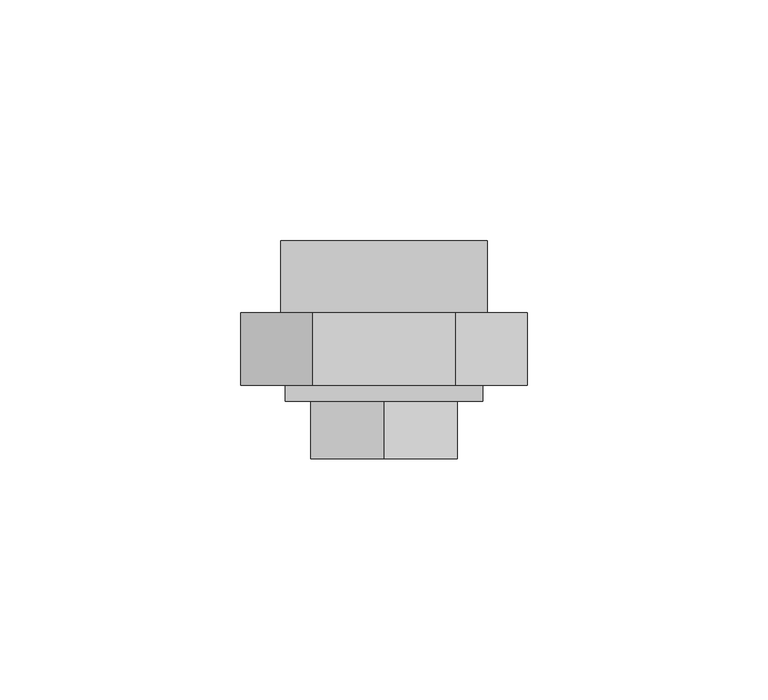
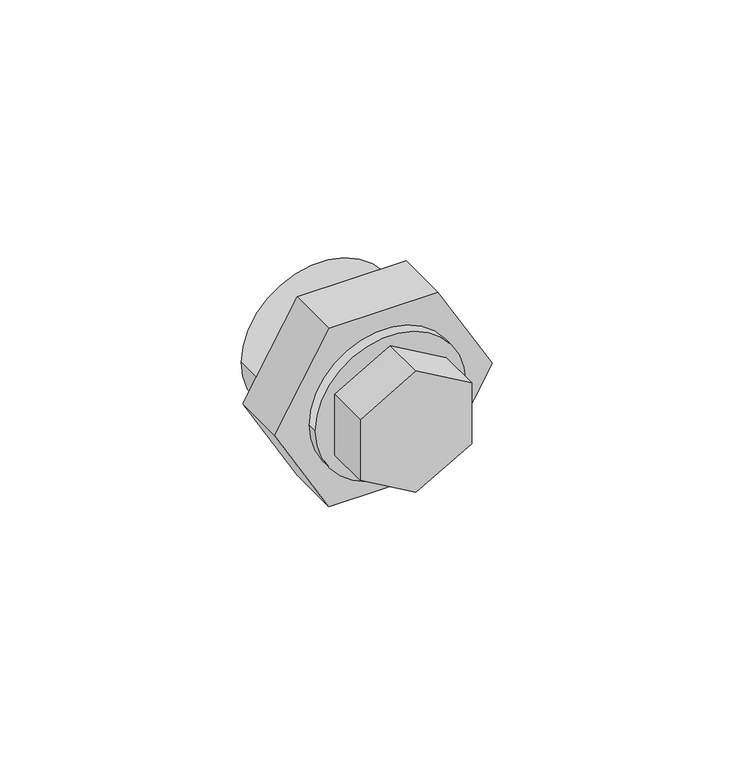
"""IFC4 building model written with IfcOpenShell, lengths in millimetres: pipe fitting geometry, EGB_VASEN_ PPR_Enlace desmontable rosca hembra WXR104 : Enlace desmontable rosca hembra WXR104."""

from ifc_helpers import new_model, si_unit, point, frame, origin, origin_2d, place, context, project, spatial, polyline, circle_curve, trimmed, segment, composite_curve, outline, extrude, source, transform, mapped, element, save


def pipe_fitting_e01cd511(model_context):
    return source(origin(), model_context, "Body", "SweptSolid", [
        extrude(outline(polyline([(-8.7988181, -15.24), (-17.5976362, 0.0), (-8.7988181, 15.24), (8.7988181, 15.24), (17.5976362, 0.0), (8.7988181, -15.24), (-8.7988181, -15.24)])), frame((0.0, -29.7545833, 0.0), z_axis=(0.0, 1.0, 0.0), x_axis=(0.0, 0.0, 1.0)), (0.0, 0.0, 1.0), 12.0),
        extrude(outline(polyline([(0.0, 29.7912739), (25.8, 14.8956369), (25.8, -14.8956369), (0.0, -29.7912739), (-25.8, -14.8956369), (-25.8, 14.8956369), (0.0, 29.7912739)])), frame((0.0, -14.3870833, 0.0), z_axis=(0.0, 1.0, 0.0), x_axis=(0.0, 0.0, 1.0)), (0.0, 0.0, 1.0), 15.0),
        extrude(outline(composite_curve([segment(trimmed(circle_curve(origin_2d(), 20.52), [point((0.0, -20.52))], [point((0.0, 20.52))], False, "CARTESIAN"), True, "CONTINUOUS"), segment(trimmed(circle_curve(origin_2d(), 20.52), [point((0.0, 20.52))], [point((0.0, -20.52))], False, "CARTESIAN"), True, "CONTINUOUS")], self_intersect=False)), frame((0.0, -17.7545833, 0.0), z_axis=(0.0, 1.0, 0.0), x_axis=(0.0, 0.0, 1.0)), (0.0, 0.0, 1.0), 3.3675),
        extrude(outline(composite_curve([segment(trimmed(circle_curve(origin_2d(), 21.5), [point((0.0, -21.5))], [point((0.0, 21.5))], False, "CARTESIAN"), True, "CONTINUOUS"), segment(trimmed(circle_curve(origin_2d(), 21.5), [point((0.0, 21.5))], [point((0.0, -21.5))], False, "CARTESIAN"), True, "CONTINUOUS")], self_intersect=False), holes=[composite_curve([segment(trimmed(circle_curve(origin_2d(), 16.0), [point((0.0, -16.0))], [point((0.0, 16.0))], True, "CARTESIAN"), True, "CONTINUOUS"), segment(trimmed(circle_curve(origin_2d(), 16.0), [point((0.0, 16.0))], [point((0.0, -16.0))], True, "CARTESIAN"), True, "CONTINUOUS")], self_intersect=False)]), frame((0.0, 0.6129167, 0.0), z_axis=(0.0, 1.0, 0.0), x_axis=(0.0, 0.0, 1.0)), (0.0, 0.0, 1.0), 15.0),
    ])


if __name__ == "__main__":
    model = new_model("IFC4")
    model_context = context("Model", 3, world=origin())
    ifc_project = project(units=[si_unit("LENGTHUNIT", "METRE", prefix="MILLI")], contexts=[model_context])
    site = spatial("IfcSite", under=ifc_project)
    building = spatial("IfcBuilding", under=site)
    placement = place(None, origin())
    pipe_fitting_shape = pipe_fitting_e01cd511(model_context)
    element("IfcPipeFitting", 1, ObjectType="EGB_VASEN_ PPR_Enlace desmontable rosca hembra WXR104 : Enlace desmontable rosca hembra WXR104", at=placement, inside=building, context=model_context, shape_type="MappedRepresentation", body=[
        mapped(pipe_fitting_shape, transform((0.0, 0.0, 0.0), x_axis=(1.0, 0.0, 0.0), y_axis=(0.0, 1.0, 0.0), z_axis=(0.0, 0.0, 1.0))),
    ])
    save(model, "model.ifc")
